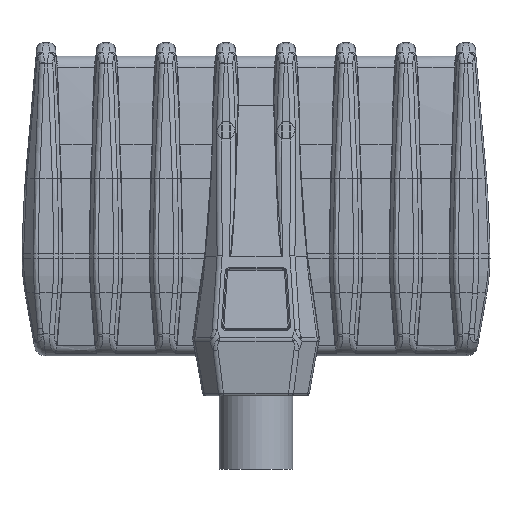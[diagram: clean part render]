
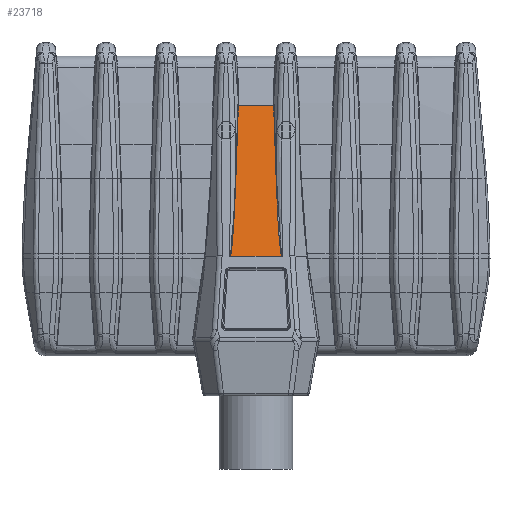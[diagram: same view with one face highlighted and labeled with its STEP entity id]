
A CAD part, front view. The second image highlights one B-rep face of the part: STEP entity #23718.
In plain terms, the highlighted planar face has unit normal (0, -0.985, 0.174).
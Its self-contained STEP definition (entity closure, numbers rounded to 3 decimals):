
#629 = EDGE_CURVE ( 'NONE', #5825, #56532, #26967, .T. ) ;
#1159 = VECTOR ( 'NONE', #59154, 1000. ) ;
#1651 = VECTOR ( 'NONE', #31197, 1000. ) ;
#5811 = B_SPLINE_CURVE_WITH_KNOTS ( 'NONE', 3,
 ( #43875, #44172, #29994, #21576 ),
 .UNSPECIFIED., .F., .F.,
 ( 4, 4 ),
 ( 0., 1. ),
 .UNSPECIFIED. ) ;
#5825 = VERTEX_POINT ( 'NONE', #45951 ) ;
#6857 = FACE_OUTER_BOUND ( 'NONE', #33068, .T. ) ;
#8278 = CARTESIAN_POINT ( 'NONE',  ( -34.945, 28.943, 1.133 ) ) ;
#8578 = CARTESIAN_POINT ( 'NONE',  ( -34.312, 28.239, -2.858 ) ) ;
#8771 = EDGE_CURVE ( 'NONE', #56532, #53574, #12984, .T. ) ;
#12194 = VERTEX_POINT ( 'NONE', #58759 ) ;
#12811 = CARTESIAN_POINT ( 'NONE',  ( -40.86, 32.241, 19.839 ) ) ;
#12984 = LINE ( 'NONE', #27414, #1159 ) ;
#14367 = ORIENTED_EDGE ( 'NONE', *, *, #21233, .T. ) ;
#14745 = EDGE_CURVE ( 'NONE', #12194, #50635, #31286, .T. ) ;
#21233 = EDGE_CURVE ( 'NONE', #53574, #42712, #50209, .T. ) ;
#21576 = CARTESIAN_POINT ( 'NONE',  ( -34.312, 28.239, -2.858 ) ) ;
#23669 = CARTESIAN_POINT ( 'NONE',  ( -42.124, 28.239, -2.858 ) ) ;
#23718 = ADVANCED_FACE ( 'NONE', ( #6857 ), #52158, .T. ) ;
#24313 = CARTESIAN_POINT ( 'NONE',  ( -35.57, 32.208, 19.652 ) ) ;
#26967 =( BOUNDED_CURVE ( )  B_SPLINE_CURVE ( 3, ( #8578, #40232, #8278, #58967 ),
 .UNSPECIFIED., .F., .T. ) 
 B_SPLINE_CURVE_WITH_KNOTS ( ( 4, 4 ),
 ( 3.152, 4.01 ),
 .UNSPECIFIED. ) 
 CURVE ( )  GEOMETRIC_REPRESENTATION_ITEM ( )  RATIONAL_B_SPLINE_CURVE ( ( 1., 0.94, 0.94, 1. ) ) 
 REPRESENTATION_ITEM ( '' )  );
#27301 = EDGE_CURVE ( 'NONE', #50635, #5825, #5811, .T. ) ;
#27414 = CARTESIAN_POINT ( 'NONE',  ( -35.569, 32.206, 19.643 ) ) ;
#27496 = ORIENTED_EDGE ( 'NONE', *, *, #30192, .T. ) ;
#28117 = CARTESIAN_POINT ( 'NONE',  ( -35.218, 32.208, 19.652 ) ) ;
#29767 = DIRECTION ( 'NONE',  ( 0., -0.985, 0.174 ) ) ;
#29994 = CARTESIAN_POINT ( 'NONE',  ( -36.916, 28.239, -2.858 ) ) ;
#30192 = EDGE_CURVE ( 'NONE', #42712, #12194, #44196, .T. ) ;
#31197 = DIRECTION ( 'NONE',  ( -0.033, -0.174, -0.984 ) ) ;
#31286 =( BOUNDED_CURVE ( )  B_SPLINE_CURVE ( 3, ( #52059, #38408, #32701, #23669 ),
 .UNSPECIFIED., .F., .T. ) 
 B_SPLINE_CURVE_WITH_KNOTS ( ( 4, 4 ),
 ( 5.415, 6.273 ),
 .UNSPECIFIED. ) 
 CURVE ( )  GEOMETRIC_REPRESENTATION_ITEM ( )  RATIONAL_B_SPLINE_CURVE ( ( 1., 0.94, 0.94, 1. ) ) 
 REPRESENTATION_ITEM ( '' )  );
#32049 = DIRECTION ( 'NONE',  ( -1., 0., 0. ) ) ;
#32470 = AXIS2_PLACEMENT_3D ( 'NONE', #42764, #29767, #47588 ) ;
#32701 = CARTESIAN_POINT ( 'NONE',  ( -41.799, 28.256, -2.762 ) ) ;
#33068 = EDGE_LOOP ( 'NONE', ( #44057, #14367, #27496, #47036, #39954, #42306 ) ) ;
#33464 = CARTESIAN_POINT ( 'NONE',  ( -40.866, 32.208, 19.652 ) ) ;
#38408 = CARTESIAN_POINT ( 'NONE',  ( -41.491, 28.943, 1.133 ) ) ;
#39954 = ORIENTED_EDGE ( 'NONE', *, *, #27301, .T. ) ;
#40232 = CARTESIAN_POINT ( 'NONE',  ( -34.636, 28.256, -2.762 ) ) ;
#41775 = VECTOR ( 'NONE', #32049, 1000. ) ;
#42306 = ORIENTED_EDGE ( 'NONE', *, *, #629, .T. ) ;
#42712 = VERTEX_POINT ( 'NONE', #33464 ) ;
#42764 = CARTESIAN_POINT ( 'NONE',  ( -35.218, 32.208, 19.654 ) ) ;
#43875 = CARTESIAN_POINT ( 'NONE',  ( -42.124, 28.239, -2.858 ) ) ;
#44057 = ORIENTED_EDGE ( 'NONE', *, *, #8771, .T. ) ;
#44083 = CARTESIAN_POINT ( 'NONE',  ( -35.18, 30.175, 8.121 ) ) ;
#44172 = CARTESIAN_POINT ( 'NONE',  ( -39.52, 28.239, -2.858 ) ) ;
#44196 = LINE ( 'NONE', #12811, #1651 ) ;
#45951 = CARTESIAN_POINT ( 'NONE',  ( -34.312, 28.239, -2.858 ) ) ;
#46469 = CARTESIAN_POINT ( 'NONE',  ( -42.124, 28.239, -2.858 ) ) ;
#47036 = ORIENTED_EDGE ( 'NONE', *, *, #14745, .T. ) ;
#47588 = DIRECTION ( 'NONE',  ( 0., -0.174, -0.985 ) ) ;
#50209 = LINE ( 'NONE', #28117, #41775 ) ;
#50635 = VERTEX_POINT ( 'NONE', #46469 ) ;
#52059 = CARTESIAN_POINT ( 'NONE',  ( -41.255, 30.175, 8.121 ) ) ;
#52158 = PLANE ( 'NONE',  #32470 ) ;
#53574 = VERTEX_POINT ( 'NONE', #24313 ) ;
#56532 = VERTEX_POINT ( 'NONE', #44083 ) ;
#58759 = CARTESIAN_POINT ( 'NONE',  ( -41.255, 30.175, 8.121 ) ) ;
#58967 = CARTESIAN_POINT ( 'NONE',  ( -35.18, 30.175, 8.121 ) ) ;
#59154 = DIRECTION ( 'NONE',  ( -0.033, 0.174, 0.984 ) ) ;
